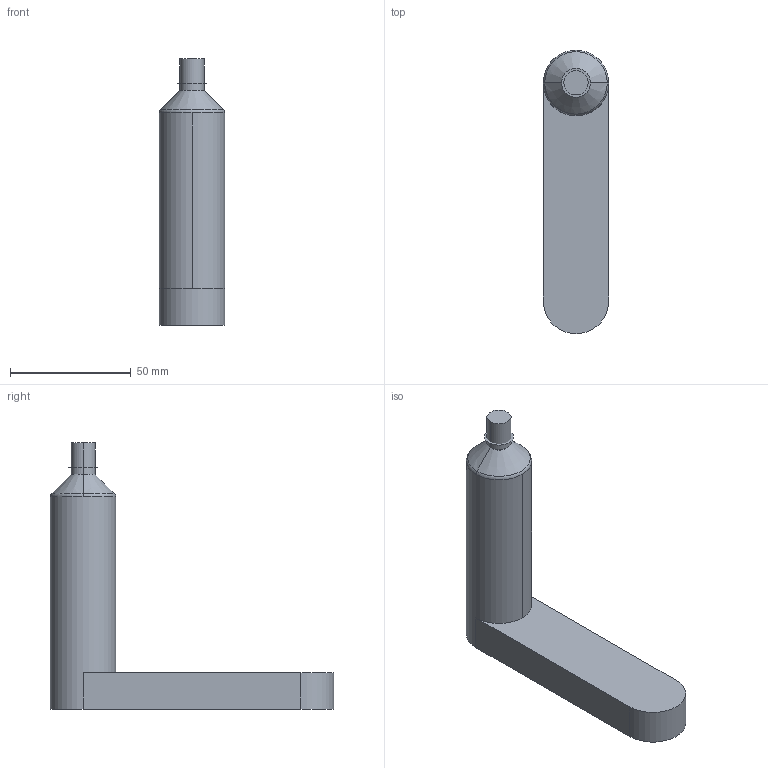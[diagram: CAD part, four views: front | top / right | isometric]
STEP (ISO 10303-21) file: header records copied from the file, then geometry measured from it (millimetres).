
FILE_DESCRIPTION (( 'STEP AP214' ), '1' );
FILE_NAME ('09E-03-100-##P.STEP', '2023-01-03T12:30:07', ( '' ), ( '' ), 'SwSTEP 2.0', 'SolidWorks 2018', '' );
FILE_SCHEMA (( 'AUTOMOTIVE_DESIGN' ));
Length unit declared in the file: millimetre
Products named in the file (3): nozzle_09E-03-100-##P; 09E-03-100-##P; cutout_09E-03-100-##P
Assembly tree (2 placements, depth 2):
  09E-03-100-##P
    nozzle_09E-03-100-##P
    cutout_09E-03-100-##P
Bounding box: 27 x 117 x 110 mm (x, y, z)
Volume: 90580.5 mm3; surface area: 42138.8 mm2
Topology: 1 solids, 4 shells, 232 faces, 623 edges, 396 vertices
Faces by surface type: cylinder 110, plane 69, cone 35, torus 14, bspline 4
Entity records: 11353 total; most frequent: CARTESIAN_POINT 5334, DIRECTION 1264, ORIENTED_EDGE 1244, EDGE_CURVE 623, AXIS2_PLACEMENT_3D 495, VERTEX_POINT 396, VECTOR 274, LINE 274
